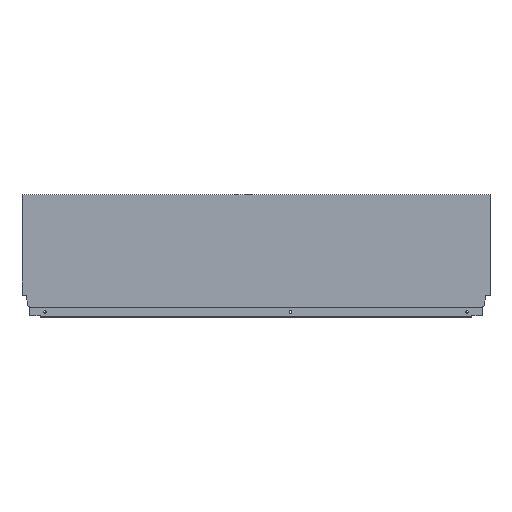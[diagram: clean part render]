
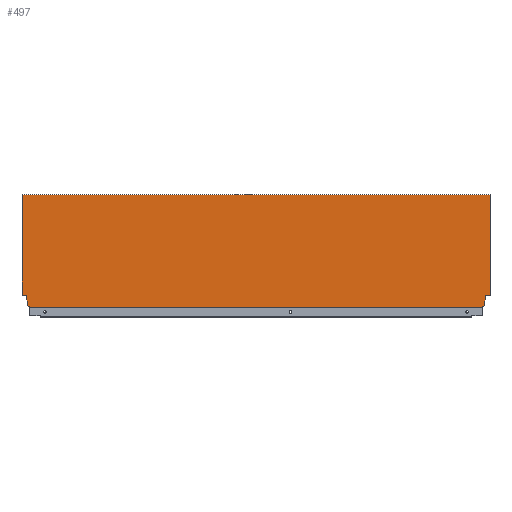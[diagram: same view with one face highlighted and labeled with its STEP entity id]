
A CAD part, top view. The second image highlights one B-rep face of the part: STEP entity #497.
In plain terms, the highlighted planar face has unit normal (0, 0, 1).
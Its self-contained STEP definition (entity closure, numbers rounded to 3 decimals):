
#47 = VECTOR ( 'NONE', #659, 1000. ) ;
#48 = LINE ( 'NONE', #660, #47 ) ;
#49 = VECTOR ( 'NONE', #662, 1000. ) ;
#50 = LINE ( 'NONE', #663, #49 ) ;
#54 = VECTOR ( 'NONE', #677, 1000. ) ;
#56 = LINE ( 'NONE', #628, #944 ) ;
#62 = CARTESIAN_POINT ( 'NONE',  ( -808.1, 2.64, 7.5 ) ) ;
#64 = CARTESIAN_POINT ( 'NONE',  ( -809.94, 21.2, 7.5 ) ) ;
#85 = PLANE ( 'NONE',  #900 ) ;
#97 = CARTESIAN_POINT ( 'NONE',  ( -817., 0., 7.5 ) ) ;
#123 = CARTESIAN_POINT ( 'NONE',  ( -817., 196.7, 7.5 ) ) ;
#124 = CARTESIAN_POINT ( 'NONE',  ( -13.004, 1.146, 7.5 ) ) ;
#125 = CARTESIAN_POINT ( 'NONE',  ( -8.9, 2.64, 7.5 ) ) ;
#128 = CARTESIAN_POINT ( 'NONE',  ( -803.996, 0., 7.5 ) ) ;
#129 = CARTESIAN_POINT ( 'NONE',  ( -13.004, 0., 7.5 ) ) ;
#136 = CARTESIAN_POINT ( 'NONE',  ( -7.06, 21.2, 7.5 ) ) ;
#148 = CARTESIAN_POINT ( 'NONE',  ( 0., 196.7, 7.5 ) ) ;
#199 = CARTESIAN_POINT ( 'NONE',  ( -808.1, 10.765, 7.5 ) ) ;
#225 = CARTESIAN_POINT ( 'NONE',  ( -803.996, 1.146, 7.5 ) ) ;
#235 = CARTESIAN_POINT ( 'NONE',  ( -817., 21.2, 7.5 ) ) ;
#238 = CARTESIAN_POINT ( 'NONE',  ( 0., 21.2, 7.5 ) ) ;
#239 = CARTESIAN_POINT ( 'NONE',  ( -8.9, 10.765, 7.5 ) ) ;
#358 = DIRECTION ( 'NONE',  ( 1., 0., 0. ) ) ;
#359 = DIRECTION ( 'NONE',  ( 0., 0., 1. ) ) ;
#373 = EDGE_CURVE ( 'NONE', #834, #763, #1366, .T. ) ;
#384 = EDGE_CURVE ( 'NONE', #830, #791, #1346, .T. ) ;
#431 = EDGE_CURVE ( 'NONE', #847, #758, #1107, .T. ) ;
#435 = EDGE_CURVE ( 'NONE', #763, #847, #919, .T. ) ;
#437 = EDGE_CURVE ( 'NONE', #787, #842, #50, .T. ) ;
#438 = EDGE_CURVE ( 'NONE', #818, #799, #48, .T. ) ;
#439 = EDGE_CURVE ( 'NONE', #799, #791, #923, .T. ) ;
#441 = EDGE_CURVE ( 'NONE', #817, #845, #1109, .T. ) ;
#443 = EDGE_CURVE ( 'NONE', #841, #818, #931, .T. ) ;
#447 = EDGE_CURVE ( 'NONE', #773, #841, #939, .T. ) ;
#449 = EDGE_CURVE ( 'NONE', #817, #787, #56, .T. ) ;
#450 = EDGE_CURVE ( 'NONE', #842, #773, #945, .T. ) ;
#454 = EDGE_CURVE ( 'NONE', #758, #845, #941, .T. ) ;
#462 = EDGE_CURVE ( 'NONE', #830, #834, #968, .T. ) ;
#497 = ADVANCED_FACE ( 'NONE', ( #1028 ), #85, .T. ) ;
#582 = DIRECTION ( 'NONE',  ( 0., 1., 0. ) ) ;
#584 = CARTESIAN_POINT ( 'NONE',  ( -803.996, 1.146, 7.5 ) ) ;
#607 = DIRECTION ( 'NONE',  ( -1., 0., 0. ) ) ;
#609 = CARTESIAN_POINT ( 'NONE',  ( -822., 21.2, 7.5 ) ) ;
#622 = DIRECTION ( 'NONE',  ( -1., 0., 0. ) ) ;
#624 = CARTESIAN_POINT ( 'NONE',  ( 0., 21.2, 7.5 ) ) ;
#625 = DIRECTION ( 'NONE',  ( 1., 0., 0. ) ) ;
#628 = CARTESIAN_POINT ( 'NONE',  ( -817., 196.7, 7.5 ) ) ;
#633 = DIRECTION ( 'NONE',  ( -0.174, -0.985, 0. ) ) ;
#634 = CARTESIAN_POINT ( 'NONE',  ( -7.06, 21.2, 7.5 ) ) ;
#644 = DIRECTION ( 'NONE',  ( 0., -1., 0. ) ) ;
#645 = CARTESIAN_POINT ( 'NONE',  ( -8.9, 10.765, 7.5 ) ) ;
#650 = DIRECTION ( 'NONE',  ( 0., -1., 0. ) ) ;
#656 = DIRECTION ( 'NONE',  ( 0., -1., 0. ) ) ;
#658 = CARTESIAN_POINT ( 'NONE',  ( -13.004, 1.146, 7.5 ) ) ;
#659 = DIRECTION ( 'NONE',  ( -0.94, -0.342, 0. ) ) ;
#660 = CARTESIAN_POINT ( 'NONE',  ( -8.9, 2.64, 7.5 ) ) ;
#662 = DIRECTION ( 'NONE',  ( 0., -1., 0. ) ) ;
#663 = CARTESIAN_POINT ( 'NONE',  ( 0., 0., 7.5 ) ) ;
#668 = DIRECTION ( 'NONE',  ( 0., 1., 0. ) ) ;
#669 = CARTESIAN_POINT ( 'NONE',  ( -808.1, 10.765, 7.5 ) ) ;
#677 = DIRECTION ( 'NONE',  ( -0.174, 0.985, 0. ) ) ;
#679 = CARTESIAN_POINT ( 'NONE',  ( -817., 0., 7.5 ) ) ;
#687 = CARTESIAN_POINT ( 'NONE',  ( -809.94, 21.2, 7.5 ) ) ;
#758 = VERTEX_POINT ( 'NONE', #64 ) ;
#763 = VERTEX_POINT ( 'NONE', #62 ) ;
#773 = VERTEX_POINT ( 'NONE', #136 ) ;
#787 = VERTEX_POINT ( 'NONE', #148 ) ;
#791 = VERTEX_POINT ( 'NONE', #129 ) ;
#799 = VERTEX_POINT ( 'NONE', #124 ) ;
#802 = DIRECTION ( 'NONE',  ( 1., 0., 0. ) ) ;
#808 = CARTESIAN_POINT ( 'NONE',  ( -817., 0., 7.5 ) ) ;
#817 = VERTEX_POINT ( 'NONE', #123 ) ;
#818 = VERTEX_POINT ( 'NONE', #125 ) ;
#828 = DIRECTION ( 'NONE',  ( -0.94, 0.342, 0. ) ) ;
#829 = CARTESIAN_POINT ( 'NONE',  ( -808.1, 2.64, 7.5 ) ) ;
#830 = VERTEX_POINT ( 'NONE', #128 ) ;
#834 = VERTEX_POINT ( 'NONE', #225 ) ;
#841 = VERTEX_POINT ( 'NONE', #239 ) ;
#842 = VERTEX_POINT ( 'NONE', #238 ) ;
#845 = VERTEX_POINT ( 'NONE', #235 ) ;
#847 = VERTEX_POINT ( 'NONE', #199 ) ;
#900 = AXIS2_PLACEMENT_3D ( 'NONE', #97, #359, #358 ) ;
#919 = LINE ( 'NONE', #669, #1258 ) ;
#923 = LINE ( 'NONE', #658, #924 ) ;
#924 = VECTOR ( 'NONE', #656, 1000. ) ;
#927 = VECTOR ( 'NONE', #650, 1000. ) ;
#928 = VECTOR ( 'NONE', #607, 1000. ) ;
#931 = LINE ( 'NONE', #645, #932 ) ;
#932 = VECTOR ( 'NONE', #644, 1000. ) ;
#939 = LINE ( 'NONE', #634, #940 ) ;
#940 = VECTOR ( 'NONE', #633, 1000. ) ;
#941 = LINE ( 'NONE', #609, #928 ) ;
#944 = VECTOR ( 'NONE', #625, 1000. ) ;
#945 = LINE ( 'NONE', #624, #946 ) ;
#946 = VECTOR ( 'NONE', #622, 1000. ) ;
#968 = LINE ( 'NONE', #584, #969 ) ;
#969 = VECTOR ( 'NONE', #582, 1000. ) ;
#1028 = FACE_OUTER_BOUND ( 'NONE', #1130, .T. ) ;
#1107 = LINE ( 'NONE', #687, #54 ) ;
#1109 = LINE ( 'NONE', #679, #927 ) ;
#1130 = EDGE_LOOP ( 'NONE', ( #1516, #1517, #1515, #1514, #1513, #1512, #1511, #1510, #1509, #1508, #1507, #1506, #1491, #1490 ) ) ;
#1258 = VECTOR ( 'NONE', #668, 1000. ) ;
#1346 = LINE ( 'NONE', #808, #1356 ) ;
#1356 = VECTOR ( 'NONE', #802, 1000. ) ;
#1365 = VECTOR ( 'NONE', #828, 1000. ) ;
#1366 = LINE ( 'NONE', #829, #1365 ) ;
#1490 = ORIENTED_EDGE ( 'NONE', *, *, #449, .F. ) ;
#1491 = ORIENTED_EDGE ( 'NONE', *, *, #437, .F. ) ;
#1506 = ORIENTED_EDGE ( 'NONE', *, *, #450, .F. ) ;
#1507 = ORIENTED_EDGE ( 'NONE', *, *, #447, .F. ) ;
#1508 = ORIENTED_EDGE ( 'NONE', *, *, #443, .F. ) ;
#1509 = ORIENTED_EDGE ( 'NONE', *, *, #438, .F. ) ;
#1510 = ORIENTED_EDGE ( 'NONE', *, *, #439, .F. ) ;
#1511 = ORIENTED_EDGE ( 'NONE', *, *, #384, .T. ) ;
#1512 = ORIENTED_EDGE ( 'NONE', *, *, #462, .F. ) ;
#1513 = ORIENTED_EDGE ( 'NONE', *, *, #373, .F. ) ;
#1514 = ORIENTED_EDGE ( 'NONE', *, *, #435, .F. ) ;
#1515 = ORIENTED_EDGE ( 'NONE', *, *, #431, .F. ) ;
#1516 = ORIENTED_EDGE ( 'NONE', *, *, #441, .T. ) ;
#1517 = ORIENTED_EDGE ( 'NONE', *, *, #454, .F. ) ;
